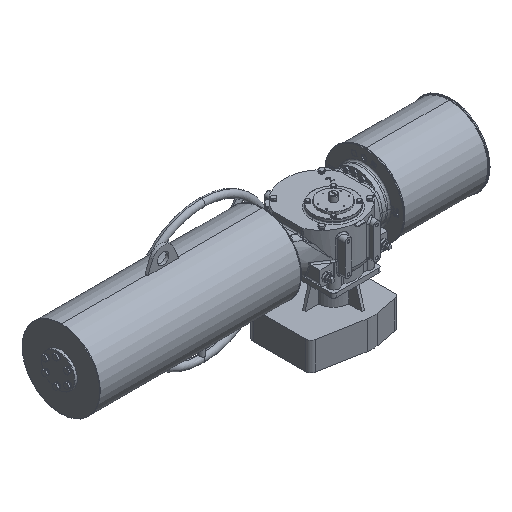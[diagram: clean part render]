
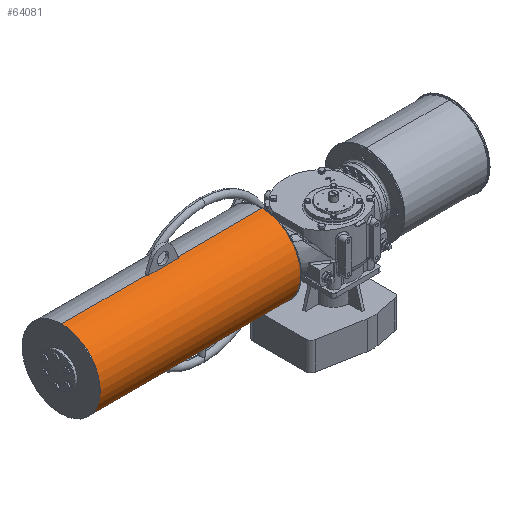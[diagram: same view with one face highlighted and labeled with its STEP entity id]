
A CAD part, isometric view. The second image highlights one B-rep face of the part: STEP entity #64081.
In plain terms, the highlighted cylindrical face has radius 136.5 mm (diameter 273 mm), a partial arc.
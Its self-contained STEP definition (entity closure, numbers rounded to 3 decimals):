
#855 = AXIS2_PLACEMENT_3D ( 'NONE', #55467, #23909, #26595 ) ;
#2145 = CIRCLE ( 'NONE', #855, 136.5 ) ;
#2289 = ORIENTED_EDGE ( 'NONE', *, *, #32949, .T. ) ;
#4148 = CYLINDRICAL_SURFACE ( 'NONE', #66769, 136.5 ) ;
#5413 = EDGE_CURVE ( 'NONE', #25737, #40919, #10798, .T. ) ;
#5758 = CIRCLE ( 'NONE', #45665, 136.5 ) ;
#5765 = VECTOR ( 'NONE', #34255, 1000. ) ;
#5853 = VERTEX_POINT ( 'NONE', #47387 ) ;
#6098 = EDGE_CURVE ( 'NONE', #25737, #44230, #33272, .T. ) ;
#6564 = VECTOR ( 'NONE', #37300, 1000. ) ;
#9853 = DIRECTION ( 'NONE',  ( -1., 0., 0. ) ) ;
#10394 = CARTESIAN_POINT ( 'NONE',  ( -180.523, 35.296, 2. ) ) ;
#10682 = DIRECTION ( 'NONE',  ( -1., 0., 0. ) ) ;
#10798 = LINE ( 'NONE', #70607, #5765 ) ;
#13093 = LINE ( 'NONE', #14249, #57670 ) ;
#14249 = CARTESIAN_POINT ( 'NONE',  ( -180.523, 30.296, 138.408 ) ) ;
#14637 = ORIENTED_EDGE ( 'NONE', *, *, #18268, .T. ) ;
#15060 = CARTESIAN_POINT ( 'NONE',  ( -884.023, 35.296, 138.5 ) ) ;
#16204 = CARTESIAN_POINT ( 'NONE',  ( -177.023, 35.296, 2. ) ) ;
#18268 = EDGE_CURVE ( 'NONE', #18751, #45198, #2145, .T. ) ;
#18496 = DIRECTION ( 'NONE',  ( -1., 0., 0. ) ) ;
#18751 = VERTEX_POINT ( 'NONE', #48425 ) ;
#19569 = DIRECTION ( 'NONE',  ( 0., 1., 0. ) ) ;
#20771 = AXIS2_PLACEMENT_3D ( 'NONE', #40695, #9853, #63387 ) ;
#20992 = FACE_OUTER_BOUND ( 'NONE', #28850, .T. ) ;
#22678 = CIRCLE ( 'NONE', #70101, 136.5 ) ;
#23055 = CARTESIAN_POINT ( 'NONE',  ( -584.523, 30.296, 138.408 ) ) ;
#23909 = DIRECTION ( 'NONE',  ( 1., 0., 0. ) ) ;
#24052 = CARTESIAN_POINT ( 'NONE',  ( -180.523, 35.296, 138.5 ) ) ;
#25055 = ORIENTED_EDGE ( 'NONE', *, *, #68884, .T. ) ;
#25737 = VERTEX_POINT ( 'NONE', #40176 ) ;
#26595 = DIRECTION ( 'NONE',  ( 0., -1., 0. ) ) ;
#26601 = EDGE_CURVE ( 'NONE', #69772, #40919, #22678, .T. ) ;
#26761 = DIRECTION ( 'NONE',  ( 1., 0., 0. ) ) ;
#27286 = EDGE_CURVE ( 'NONE', #60100, #45198, #13093, .T. ) ;
#28850 = EDGE_LOOP ( 'NONE', ( #34126, #46328, #25055, #76047, #14637, #53274, #2289, #32521, #72915 ) ) ;
#29039 = CARTESIAN_POINT ( 'NONE',  ( -884.023, 35.296, 2. ) ) ;
#32521 = ORIENTED_EDGE ( 'NONE', *, *, #75874, .T. ) ;
#32705 = DIRECTION ( 'NONE',  ( -1., 0., 0. ) ) ;
#32949 = EDGE_CURVE ( 'NONE', #60100, #5853, #5758, .T. ) ;
#33272 = CIRCLE ( 'NONE', #20771, 136.5 ) ;
#33398 = DIRECTION ( 'NONE',  ( 0., 0., 1. ) ) ;
#34126 = ORIENTED_EDGE ( 'NONE', *, *, #5413, .F. ) ;
#34255 = DIRECTION ( 'NONE',  ( -1., 0., 0. ) ) ;
#37300 = DIRECTION ( 'NONE',  ( -1., 0., 0. ) ) ;
#40176 = CARTESIAN_POINT ( 'NONE',  ( -177.023, 35.296, -134.5 ) ) ;
#40695 = CARTESIAN_POINT ( 'NONE',  ( -177.023, 35.296, 2. ) ) ;
#40919 = VERTEX_POINT ( 'NONE', #47107 ) ;
#41142 = DIRECTION ( 'NONE',  ( 0., 0., 1. ) ) ;
#43021 = AXIS2_PLACEMENT_3D ( 'NONE', #16204, #10682, #33398 ) ;
#44230 = VERTEX_POINT ( 'NONE', #64790 ) ;
#45198 = VERTEX_POINT ( 'NONE', #70581 ) ;
#45665 = AXIS2_PLACEMENT_3D ( 'NONE', #71965, #53951, #19569 ) ;
#46328 = ORIENTED_EDGE ( 'NONE', *, *, #6098, .T. ) ;
#47107 = CARTESIAN_POINT ( 'NONE',  ( -884.023, 35.296, -134.5 ) ) ;
#47387 = CARTESIAN_POINT ( 'NONE',  ( -584.523, 35.296, 138.5 ) ) ;
#48217 = LINE ( 'NONE', #24052, #6564 ) ;
#48425 = CARTESIAN_POINT ( 'NONE',  ( -476.523, 35.296, 138.5 ) ) ;
#49243 = CIRCLE ( 'NONE', #43021, 136.5 ) ;
#52828 = DIRECTION ( 'NONE',  ( 1., 0., 0. ) ) ;
#52883 = EDGE_CURVE ( 'NONE', #58938, #18751, #54020, .T. ) ;
#53274 = ORIENTED_EDGE ( 'NONE', *, *, #27286, .F. ) ;
#53951 = DIRECTION ( 'NONE',  ( -1., 0., 0. ) ) ;
#54020 = LINE ( 'NONE', #72035, #61085 ) ;
#55467 = CARTESIAN_POINT ( 'NONE',  ( -476.523, 35.296, 2. ) ) ;
#56893 = DIRECTION ( 'NONE',  ( 0., 0., 1. ) ) ;
#57670 = VECTOR ( 'NONE', #26761, 1000. ) ;
#58938 = VERTEX_POINT ( 'NONE', #67166 ) ;
#60100 = VERTEX_POINT ( 'NONE', #23055 ) ;
#61085 = VECTOR ( 'NONE', #18496, 1000. ) ;
#63387 = DIRECTION ( 'NONE',  ( 0., 0., 1. ) ) ;
#64081 = ADVANCED_FACE ( 'NONE', ( #20992 ), #4148, .T. ) ;
#64790 = CARTESIAN_POINT ( 'NONE',  ( -177.023, -101.204, 2. ) ) ;
#66769 = AXIS2_PLACEMENT_3D ( 'NONE', #10394, #32705, #56893 ) ;
#67166 = CARTESIAN_POINT ( 'NONE',  ( -177.023, 35.296, 138.5 ) ) ;
#68884 = EDGE_CURVE ( 'NONE', #44230, #58938, #49243, .T. ) ;
#69772 = VERTEX_POINT ( 'NONE', #15060 ) ;
#70101 = AXIS2_PLACEMENT_3D ( 'NONE', #29039, #52828, #41142 ) ;
#70581 = CARTESIAN_POINT ( 'NONE',  ( -476.523, 30.296, 138.408 ) ) ;
#70607 = CARTESIAN_POINT ( 'NONE',  ( -180.523, 35.296, -134.5 ) ) ;
#71965 = CARTESIAN_POINT ( 'NONE',  ( -584.523, 35.296, 2. ) ) ;
#72035 = CARTESIAN_POINT ( 'NONE',  ( -180.523, 35.296, 138.5 ) ) ;
#72915 = ORIENTED_EDGE ( 'NONE', *, *, #26601, .T. ) ;
#75874 = EDGE_CURVE ( 'NONE', #5853, #69772, #48217, .T. ) ;
#76047 = ORIENTED_EDGE ( 'NONE', *, *, #52883, .T. ) ;
